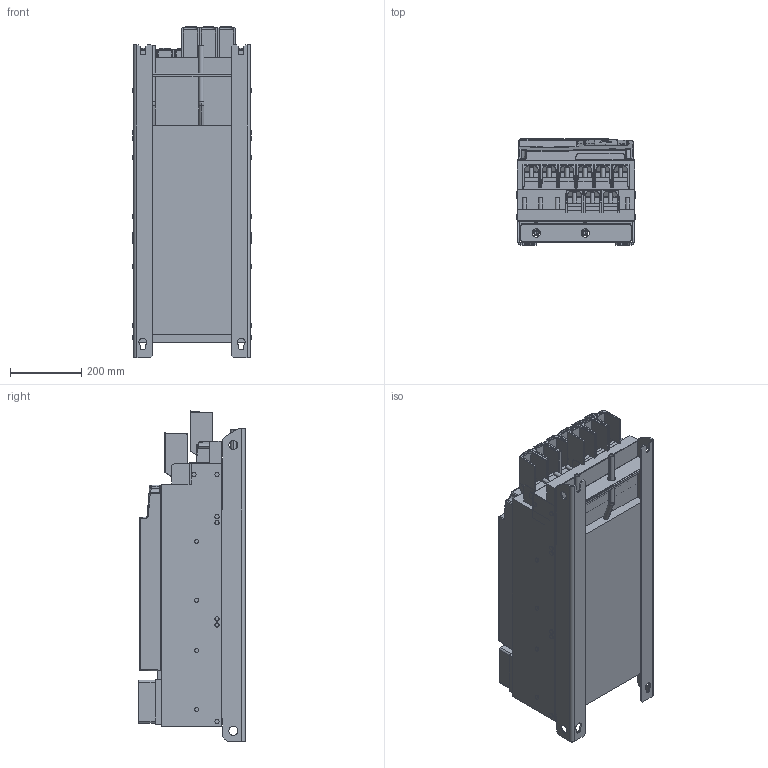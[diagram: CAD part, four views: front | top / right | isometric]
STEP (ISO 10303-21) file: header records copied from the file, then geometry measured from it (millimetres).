
FILE_DESCRIPTION (( 'STEP AP214' ), '1' );
FILE_NAME ('F6-8TW0-K000.STEP', '2021-03-02T07:23:03', ( '' ), ( '' ), 'SwSTEP 2.0', 'SolidWorks 2019', '' );
FILE_SCHEMA (( 'AUTOMOTIVE_DESIGN' ));
Length unit declared in the file: millimetre
Products named in the file (13): 10040552_000_Kundenmodell; 10059764_000_Blindabdeckung (Kundenmodell); 10063180_000; 10035735_000_Kundenmodell; 10063898_000; 10047771_000_Kundenmodell; 10063225_000; F6-8TW0-K000; 10063199_000; 10063887_000_F6-8 Leistungsteil TW0 (Kundenmodell); 10038044_000_Kundemodell; 10059765_000; 10058413_000
Assembly tree (12 placements, depth 4):
  F6-8TW0-K000
    10063887_000_F6-8 Leistungsteil TW0 (Kundenmodell)
      10038044_000_Kundemodell
        10063180_000
      10063898_000
    10040552_000_Kundenmodell
      10047771_000_Kundenmodell
        10063225_000
      10063199_000
    10035735_000_Kundenmodell
      10059764_000_Blindabdeckung (Kundenmodell)
        10059765_000
      10058413_000
Bounding box: 335.5 x 296.9 x 926.37 mm (x, y, z)
Volume: 61968251.4 mm3; surface area: 3009062.4 mm2
Topology: 6 solids, 30 shells, 2706 faces, 6896 edges, 4274 vertices
Faces by surface type: plane 1425, cylinder 775, bspline 209, sphere 154, cone 90, torus 53
Entity records: 87222 total; most frequent: CARTESIAN_POINT 23422, ORIENTED_EDGE 13570, DIRECTION 12614, EDGE_CURVE 6785, VECTOR 4362, LINE 4362, VERTEX_POINT 4271, AXIS2_PLACEMENT_3D 4126
